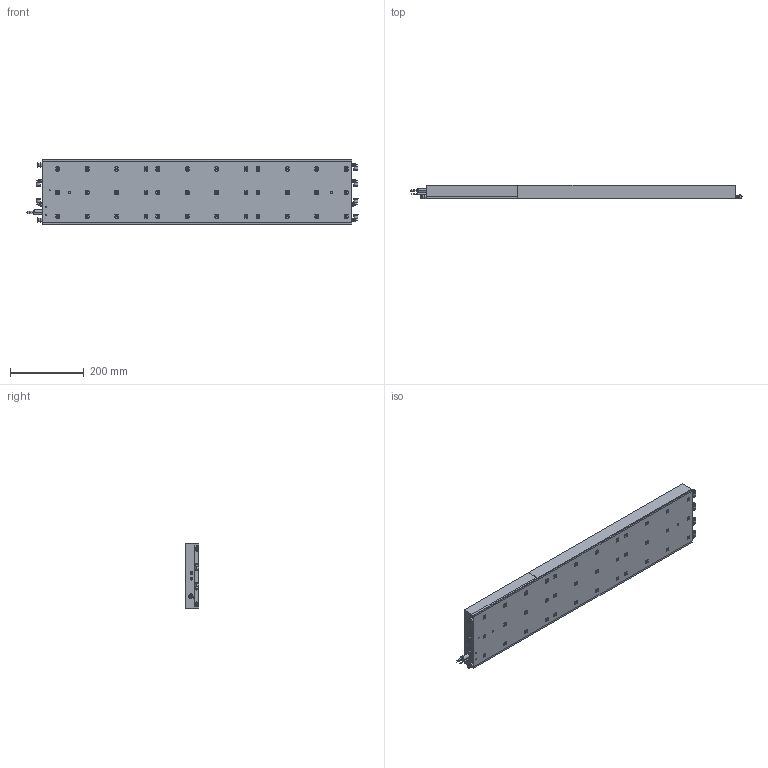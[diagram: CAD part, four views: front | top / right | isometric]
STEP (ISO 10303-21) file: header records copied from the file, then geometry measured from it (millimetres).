
FILE_DESCRIPTION (( 'STEP AP203' ), '1' );
FILE_NAME ('IC177WC-45 3D.STEP', '2021-12-13T02:17:45', ( '' ), ( '' ), 'SwSTEP 2.0', 'SolidWorks 2021', '' );
FILE_SCHEMA (( 'CONFIG_CONTROL_DESIGN' ));
Length unit declared in the file: millimetre
Products named in the file (1): IC177WC-45 3D
Bounding box: 902.4 x 37 x 177.15 mm (x, y, z)
Volume: 5460266.4 mm3; surface area: 829535.9 mm2
Topology: 27 solids, 27 shells, 1739 faces, 4510 edges, 2842 vertices
Faces by surface type: plane 828, cylinder 589, cone 234, torus 58, sphere 30
Entity records: 54105 total; most frequent: CARTESIAN_POINT 10780, DIRECTION 9110, ORIENTED_EDGE 8960, EDGE_CURVE 4480, AXIS2_PLACEMENT_3D 3192, VERTEX_POINT 2842, VECTOR 2726, LINE 2726
